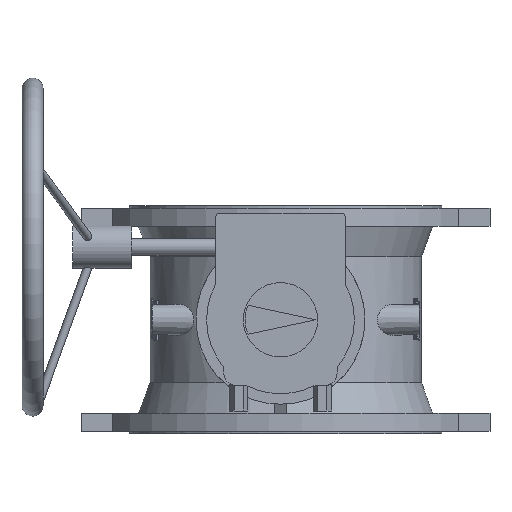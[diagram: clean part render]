
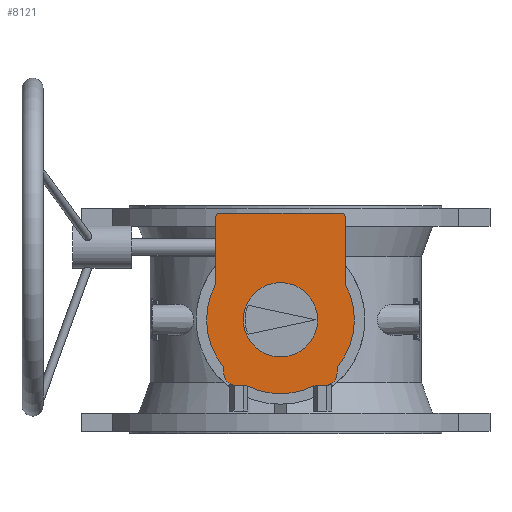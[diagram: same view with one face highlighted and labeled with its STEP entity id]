
A CAD part, left-side view. The second image highlights one B-rep face of the part: STEP entity #8121.
In plain terms, the highlighted planar face has unit normal (-1, 0, 0).
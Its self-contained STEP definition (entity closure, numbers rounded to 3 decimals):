
#350 = CARTESIAN_POINT ( 'NONE',  ( -347., -12.791, 0. ) ) ;
#351 = DIRECTION ( 'NONE',  ( -1., 0., 0. ) ) ;
#352 = DIRECTION ( 'NONE',  ( 0., 0., 1. ) ) ;
#475 = CARTESIAN_POINT ( 'NONE',  ( -347., 64.209, 41.56 ) ) ;
#476 = DIRECTION ( 'NONE',  ( 0., 0., -1. ) ) ;
#491 = CARTESIAN_POINT ( 'NONE',  ( -347., -84.791, 121. ) ) ;
#492 = DIRECTION ( 'NONE',  ( -1., 0., 0. ) ) ;
#493 = DIRECTION ( 'NONE',  ( 0., 0., 1. ) ) ;
#511 = CARTESIAN_POINT ( 'NONE',  ( -347., 54.209, -56.278 ) ) ;
#512 = DIRECTION ( 'NONE',  ( 0., 0., -1. ) ) ;
#569 = CARTESIAN_POINT ( 'NONE',  ( -347., -79.791, -78. ) ) ;
#578 = DIRECTION ( 'NONE',  ( 0., -1., 0. ) ) ;
#582 = CARTESIAN_POINT ( 'NONE',  ( -347., 59.209, 121. ) ) ;
#583 = DIRECTION ( 'NONE',  ( -1., 0., 0. ) ) ;
#584 = DIRECTION ( 'NONE',  ( 0., 0., 1. ) ) ;
#608 = DIRECTION ( 'NONE',  ( 0., 0., 1. ) ) ;
#661 = CARTESIAN_POINT ( 'NONE',  ( -347., -89.791, 41.56 ) ) ;
#672 = CARTESIAN_POINT ( 'NONE',  ( -347., -12.791, 0. ) ) ;
#673 = DIRECTION ( 'NONE',  ( -1., 0., 0. ) ) ;
#674 = DIRECTION ( 'NONE',  ( 0., 0., 1. ) ) ;
#676 = CARTESIAN_POINT ( 'NONE',  ( -347., -79.791, -56.278 ) ) ;
#684 = DIRECTION ( 'NONE',  ( 0., 0., 1. ) ) ;
#2632 = EDGE_LOOP ( 'NONE', ( #11551 ) ) ;
#3057 = EDGE_LOOP ( 'NONE', ( #11537, #11538, #11539, #11540, #11541, #11542, #11543, #11544, #11545, #11546, #11547, #11548, #11549, #11550 ) ) ;
#4531 = CARTESIAN_POINT ( 'NONE',  ( -347., 64.209, 41.56 ) ) ;
#4540 = CARTESIAN_POINT ( 'NONE',  ( -347., 64.209, 121. ) ) ;
#4553 = CARTESIAN_POINT ( 'NONE',  ( -347., -64.791, -78. ) ) ;
#4593 = CARTESIAN_POINT ( 'NONE',  ( -347., -52.443, -78. ) ) ;
#4650 = CARTESIAN_POINT ( 'NONE',  ( -347., -12.791, 44. ) ) ;
#4739 = AXIS2_PLACEMENT_3D ( 'NONE', #8398, #8361, #8360 ) ;
#4807 = AXIS2_PLACEMENT_3D ( 'NONE', #6405, #6404, #6403 ) ;
#6177 = DIRECTION ( 'NONE',  ( 0., -1., 0. ) ) ;
#6187 = CARTESIAN_POINT ( 'NONE',  ( -347., 26.86, -78. ) ) ;
#6403 = DIRECTION ( 'NONE',  ( 0., 0., 1. ) ) ;
#6404 = DIRECTION ( 'NONE',  ( -1., 0., 0. ) ) ;
#6405 = CARTESIAN_POINT ( 'NONE',  ( -347., 39.209, -63. ) ) ;
#7802 = EDGE_CURVE ( 'NONE', #10548, #10546, #15566, .T. ) ;
#7840 = EDGE_CURVE ( 'NONE', #10546, #10550, #15611, .T. ) ;
#7868 = EDGE_CURVE ( 'NONE', #10650, #10575, #15648, .T. ) ;
#7981 = DIRECTION ( 'NONE',  ( 0., 0., 1. ) ) ;
#7982 = DIRECTION ( 'NONE',  ( -1., 0., 0. ) ) ;
#7986 = CARTESIAN_POINT ( 'NONE',  ( -347., -64.791, -63. ) ) ;
#8033 = DIRECTION ( 'NONE',  ( 0., 0., 1. ) ) ;
#8034 = DIRECTION ( 'NONE',  ( -1., 0., 0. ) ) ;
#8045 = CARTESIAN_POINT ( 'NONE',  ( -347., -12.791, 0. ) ) ;
#8121 = ADVANCED_FACE ( 'NONE', ( #15718, #15721 ), #8363, .T. ) ;
#8124 = DIRECTION ( 'NONE',  ( 0., 0., 1. ) ) ;
#8146 = DIRECTION ( 'NONE',  ( -1., 0., 0. ) ) ;
#8150 = CARTESIAN_POINT ( 'NONE',  ( -347., -12.791, 0. ) ) ;
#8360 = DIRECTION ( 'NONE',  ( 0., 0., 1. ) ) ;
#8361 = DIRECTION ( 'NONE',  ( -1., 0., 0. ) ) ;
#8363 = PLANE ( 'NONE',  #4739 ) ;
#8398 = CARTESIAN_POINT ( 'NONE',  ( -347., -12.791, 0. ) ) ;
#8516 = DIRECTION ( 'NONE',  ( 0., 1., 0. ) ) ;
#8526 = CARTESIAN_POINT ( 'NONE',  ( -347., -89.791, 126. ) ) ;
#8772 = VERTEX_POINT ( 'NONE', #4650 ) ;
#9237 = EDGE_CURVE ( 'NONE', #10594, #10637, #15776, .T. ) ;
#9242 = EDGE_CURVE ( 'NONE', #10550, #17342, #15786, .T. ) ;
#9250 = EDGE_CURVE ( 'NONE', #17302, #10929, #15797, .T. ) ;
#9391 = EDGE_CURVE ( 'NONE', #8772, #8772, #15961, .T. ) ;
#9414 = EDGE_CURVE ( 'NONE', #17289, #17284, #15990, .T. ) ;
#9420 = EDGE_CURVE ( 'NONE', #10941, #10650, #16000, .T. ) ;
#9425 = EDGE_CURVE ( 'NONE', #10642, #10548, #15999, .T. ) ;
#9438 = EDGE_CURVE ( 'NONE', #17342, #17302, #16013, .T. ) ;
#9439 = EDGE_CURVE ( 'NONE', #10575, #17289, #15992, .T. ) ;
#9458 = EDGE_CURVE ( 'NONE', #10637, #10941, #16033, .T. ) ;
#9460 = EDGE_CURVE ( 'NONE', #17284, #10642, #16038, .T. ) ;
#9463 = EDGE_CURVE ( 'NONE', #10929, #10594, #16041, .T. ) ;
#10515 = AXIS2_PLACEMENT_3D ( 'NONE', #672, #673, #674 ) ;
#10546 = VERTEX_POINT ( 'NONE', #13096 ) ;
#10548 = VERTEX_POINT ( 'NONE', #13094 ) ;
#10550 = VERTEX_POINT ( 'NONE', #13099 ) ;
#10575 = VERTEX_POINT ( 'NONE', #13107 ) ;
#10594 = VERTEX_POINT ( 'NONE', #13112 ) ;
#10637 = VERTEX_POINT ( 'NONE', #13133 ) ;
#10642 = VERTEX_POINT ( 'NONE', #13135 ) ;
#10650 = VERTEX_POINT ( 'NONE', #13137 ) ;
#10929 = VERTEX_POINT ( 'NONE', #13161 ) ;
#10941 = VERTEX_POINT ( 'NONE', #13163 ) ;
#11537 = ORIENTED_EDGE ( 'NONE', *, *, #7868, .T. ) ;
#11538 = ORIENTED_EDGE ( 'NONE', *, *, #9439, .T. ) ;
#11539 = ORIENTED_EDGE ( 'NONE', *, *, #9414, .T. ) ;
#11540 = ORIENTED_EDGE ( 'NONE', *, *, #9460, .T. ) ;
#11541 = ORIENTED_EDGE ( 'NONE', *, *, #9425, .T. ) ;
#11542 = ORIENTED_EDGE ( 'NONE', *, *, #7802, .T. ) ;
#11543 = ORIENTED_EDGE ( 'NONE', *, *, #7840, .T. ) ;
#11544 = ORIENTED_EDGE ( 'NONE', *, *, #9242, .T. ) ;
#11545 = ORIENTED_EDGE ( 'NONE', *, *, #9438, .T. ) ;
#11546 = ORIENTED_EDGE ( 'NONE', *, *, #9250, .T. ) ;
#11547 = ORIENTED_EDGE ( 'NONE', *, *, #9463, .T. ) ;
#11548 = ORIENTED_EDGE ( 'NONE', *, *, #9237, .T. ) ;
#11549 = ORIENTED_EDGE ( 'NONE', *, *, #9458, .T. ) ;
#11550 = ORIENTED_EDGE ( 'NONE', *, *, #9420, .T. ) ;
#11551 = ORIENTED_EDGE ( 'NONE', *, *, #9391, .F. ) ;
#13094 = CARTESIAN_POINT ( 'NONE',  ( -347., 54.209, -63. ) ) ;
#13096 = CARTESIAN_POINT ( 'NONE',  ( -347., 39.209, -78. ) ) ;
#13099 = CARTESIAN_POINT ( 'NONE',  ( -347., 26.86, -78. ) ) ;
#13107 = CARTESIAN_POINT ( 'NONE',  ( -347., 59.209, 126. ) ) ;
#13112 = CARTESIAN_POINT ( 'NONE',  ( -347., -79.791, -56.278 ) ) ;
#13133 = CARTESIAN_POINT ( 'NONE',  ( -347., -89.791, 41.56 ) ) ;
#13135 = CARTESIAN_POINT ( 'NONE',  ( -347., 54.209, -56.278 ) ) ;
#13137 = CARTESIAN_POINT ( 'NONE',  ( -347., -84.791, 126. ) ) ;
#13161 = CARTESIAN_POINT ( 'NONE',  ( -347., -79.791, -63. ) ) ;
#13163 = CARTESIAN_POINT ( 'NONE',  ( -347., -89.791, 121. ) ) ;
#15566 = CIRCLE ( 'NONE', #4807, 15. ) ;
#15611 = LINE ( 'NONE', #6187, #15613 ) ;
#15613 = VECTOR ( 'NONE', #6177, 1000. ) ;
#15648 = LINE ( 'NONE', #8526, #15651 ) ;
#15651 = VECTOR ( 'NONE', #8516, 1000. ) ;
#15718 = FACE_OUTER_BOUND ( 'NONE', #3057, .T. ) ;
#15721 = FACE_BOUND ( 'NONE', #2632, .T. ) ;
#15776 = CIRCLE ( 'NONE', #17448, 87.5 ) ;
#15786 = CIRCLE ( 'NONE', #17450, 87.5 ) ;
#15797 = CIRCLE ( 'NONE', #17406, 15. ) ;
#15961 = CIRCLE ( 'NONE', #17424, 44. ) ;
#15990 = LINE ( 'NONE', #475, #15991 ) ;
#15991 = VECTOR ( 'NONE', #476, 1000. ) ;
#15992 = CIRCLE ( 'NONE', #17401, 5. ) ;
#15999 = LINE ( 'NONE', #511, #16003 ) ;
#16000 = CIRCLE ( 'NONE', #17405, 5. ) ;
#16003 = VECTOR ( 'NONE', #512, 1000. ) ;
#16013 = LINE ( 'NONE', #569, #16015 ) ;
#16015 = VECTOR ( 'NONE', #578, 1000. ) ;
#16033 = LINE ( 'NONE', #661, #16037 ) ;
#16037 = VECTOR ( 'NONE', #608, 1000. ) ;
#16038 = CIRCLE ( 'NONE', #10515, 87.5 ) ;
#16041 = LINE ( 'NONE', #676, #16043 ) ;
#16043 = VECTOR ( 'NONE', #684, 1000. ) ;
#17284 = VERTEX_POINT ( 'NONE', #4531 ) ;
#17289 = VERTEX_POINT ( 'NONE', #4540 ) ;
#17302 = VERTEX_POINT ( 'NONE', #4553 ) ;
#17342 = VERTEX_POINT ( 'NONE', #4593 ) ;
#17401 = AXIS2_PLACEMENT_3D ( 'NONE', #582, #583, #584 ) ;
#17405 = AXIS2_PLACEMENT_3D ( 'NONE', #491, #492, #493 ) ;
#17406 = AXIS2_PLACEMENT_3D ( 'NONE', #7986, #7982, #7981 ) ;
#17424 = AXIS2_PLACEMENT_3D ( 'NONE', #350, #351, #352 ) ;
#17448 = AXIS2_PLACEMENT_3D ( 'NONE', #8150, #8146, #8124 ) ;
#17450 = AXIS2_PLACEMENT_3D ( 'NONE', #8045, #8034, #8033 ) ;
